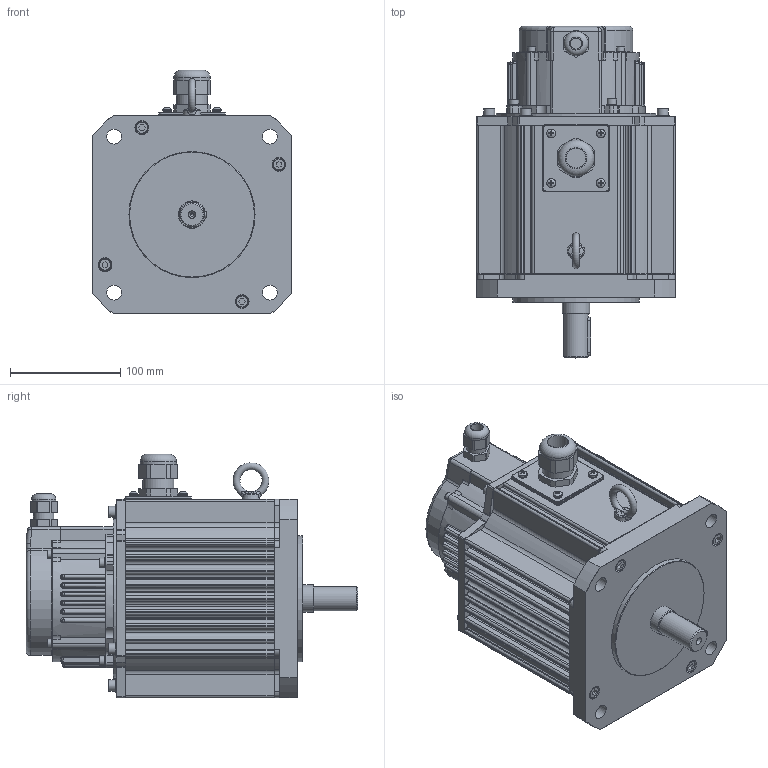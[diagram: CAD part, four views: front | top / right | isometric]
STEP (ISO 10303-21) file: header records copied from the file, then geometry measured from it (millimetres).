
FILE_DESCRIPTION(('STEP AP203'),'1');
FILE_NAME('B152E-D4RB.stp','2021-04-21T01:33:45',(' '),(' '),'Spatial InterOp 3D',' ',' ');
FILE_SCHEMA(('CONFIG_CONTROL_DESIGN'));
Length unit declared in the file: millimetre
Products named in the file (1): B152E-D4RB
Bounding box: 180 x 301 x 221 mm (x, y, z)
Volume: 5324863.6 mm3; surface area: 291044.6 mm2
Topology: 1 solids, 15 shells, 1995 faces, 4792 edges, 2894 vertices
Faces by surface type: plane 957, cylinder 499, cone 378, torus 93, bspline 46, sphere 22
Full cylindrical faces by diameter (mm): 3.15 x1, 4 x8, 4.2 x2, 4.5 x8, 5 x12, 5.5 x4, 6 x9, 6.5 x8, 6.75 x1, 7 x4, 8 x4, 8.5 x4, 10 x9, 10.5 x1, 12.5 x8, 13.5 x4, 18 x1, 18.5 x1, 18.6 x1, 22 x2, 24.8 x1, 28.3 x2, 29 x1, 33 x1, 41 x1, 114.3 x1, 145 x1
Entity records: 67516 total; most frequent: CARTESIAN_POINT 22075, DIRECTION 9699, ORIENTED_EDGE 9134, EDGE_CURVE 4567, AXIS2_PLACEMENT_3D 3601, VERTEX_POINT 2815, LINE 2497, VECTOR 2497
